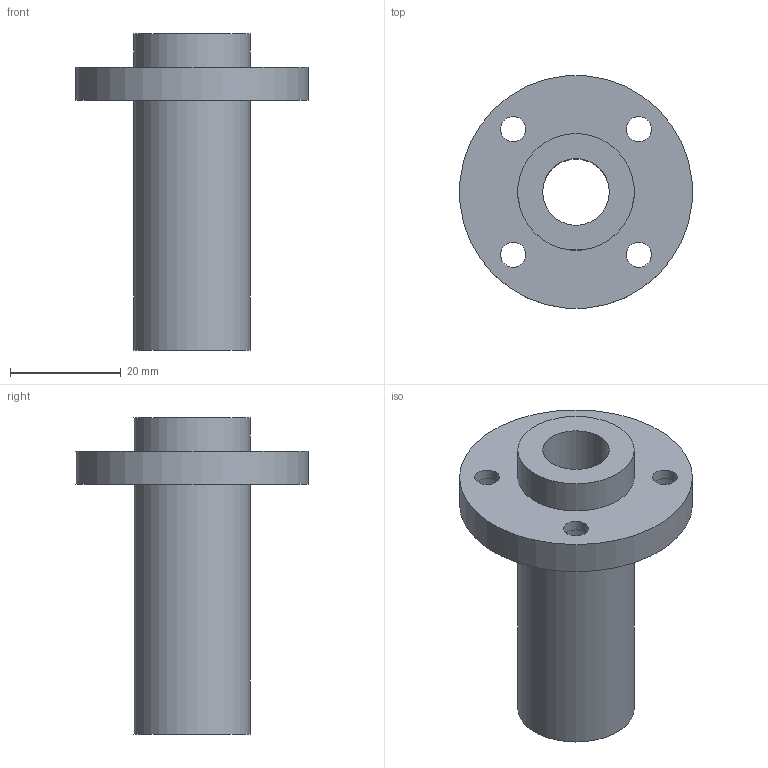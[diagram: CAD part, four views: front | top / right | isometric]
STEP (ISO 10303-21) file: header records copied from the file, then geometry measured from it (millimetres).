
FILE_DESCRIPTION(/* description */ (''),/* implementation_level */ '2;1');
FILE_NAME(/* name */ 'LMFP12LUU',/* time_stamp */ '2019-07-03T13:00:23+02:00',/* author */ ('VĂ©gh MĂˇtĂ©'),/* organization */ ('Bearing Kft'),/* preprocessor_version */ 'ST-DEVELOPER v16.7',/* originating_system */ 'DEX',/* authorisation */ $);
FILE_SCHEMA (('AUTOMOTIVE_DESIGN {1 0 10303 214 3 1 1}'));
Length unit declared in the file: millimetre
Products named in the file (1): LMFP12LUU
Bounding box: 41.84 x 41.84 x 57 mm (x, y, z)
Volume: 18683.5 mm3; surface area: 9232.2 mm2
Topology: 1 solids, 1 shells, 336 faces, 844 edges, 564 vertices
Faces by surface type: plane 261, bspline 60, cylinder 15
Full cylindrical faces by diameter (mm): 4.5 x4, 7.5 x4, 12 x1, 21 x2, 42 x1
Entity records: 12631 total; most frequent: CARTESIAN_POINT 4956, ORIENTED_EDGE 1654, DIRECTION 1291, EDGE_CURVE 827, LINE 677, VECTOR 677, VERTEX_POINT 560, EDGE_LOOP 413
